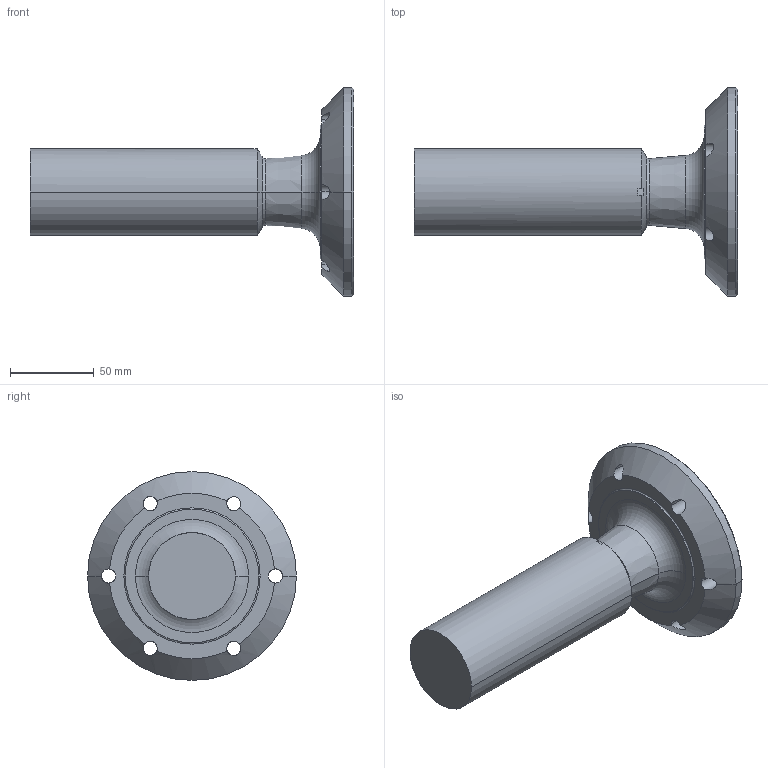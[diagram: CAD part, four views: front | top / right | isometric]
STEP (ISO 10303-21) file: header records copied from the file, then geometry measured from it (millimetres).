
FILE_DESCRIPTION (( 'STEP AP214' ), '1' );
FILE_NAME ('IRB4600_40-255_link6_CAD_03.STEP', '2012-06-19T06:30:29', ( 'ABB' ), ( 'ABB' ), 'SwSTEP 2.0', 'SolidWorks 2010', '' );
FILE_SCHEMA (( 'AUTOMOTIVE_DESIGN' ));
Length unit declared in the file: millimetre
Products named in the file (1): IRB4600_40-255_link6_CAD_03
Bounding box: 193.5 x 125 x 125 mm (x, y, z)
Volume: 517199.1 mm3; surface area: 60381.6 mm2
Topology: 1 solids, 1 shells, 55 faces, 141 edges, 85 vertices
Faces by surface type: cylinder 23, torus 12, cone 12, plane 8
Entity records: 1958 total; most frequent: CARTESIAN_POINT 536, DIRECTION 322, ORIENTED_EDGE 278, AXIS2_PLACEMENT_3D 143, EDGE_CURVE 139, CIRCLE 87, VERTEX_POINT 85, EDGE_LOOP 66
